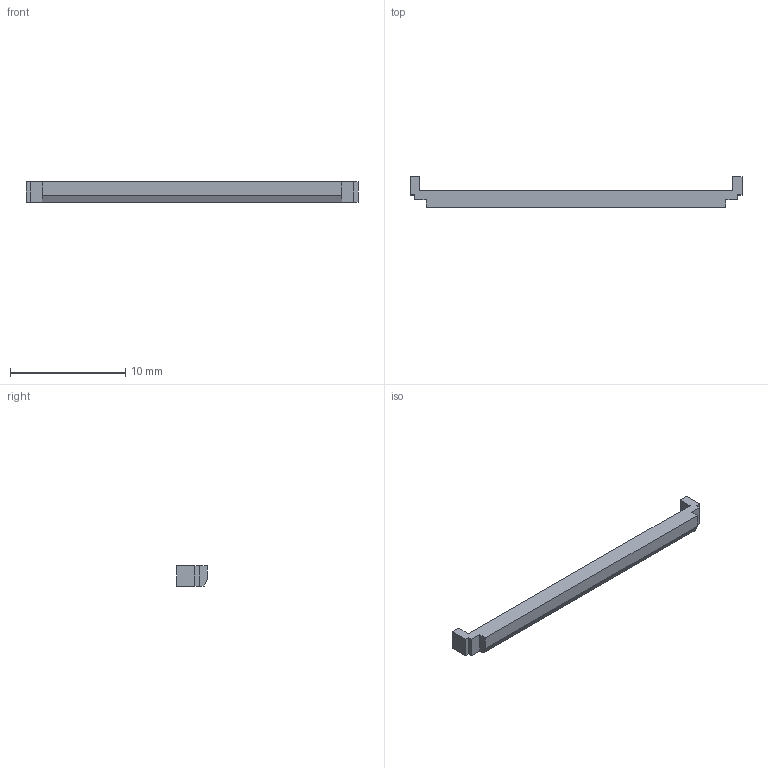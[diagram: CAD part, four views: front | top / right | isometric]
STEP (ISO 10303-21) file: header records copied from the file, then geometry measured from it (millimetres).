
FILE_DESCRIPTION(('Open CASCADE Model'),'2;1');
FILE_NAME('Open CASCADE Shape Model','2026-09-30T21:50:23',('Author'),( 'Open CASCADE'),'Open CASCADE STEP processor 7.9','Open CASCADE 7.9' ,'Unknown');
FILE_SCHEMA(('AUTOMOTIVE_DESIGN { 1 0 10303 214 1 1 1 1 }'));
Length unit declared in the file: millimetre
Products named in the file (1): Open CASCADE STEP translator 7.9 7
Bounding box: 28.8 x 2.68 x 1.75 mm (x, y, z)
Volume: 71.9 mm3; surface area: 193.2 mm2
Topology: 1 solids, 1 shells, 19 faces, 51 edges, 34 vertices
Faces by surface type: plane 19
Entity records: 1247 total; most frequent: CARTESIAN_POINT 218, DIRECTION 182, LINE 142, VECTOR 142, ORIENTED_EDGE 102, PCURVE 102, DEFINITIONAL_REPRESENTATION 102, EDGE_CURVE 51
